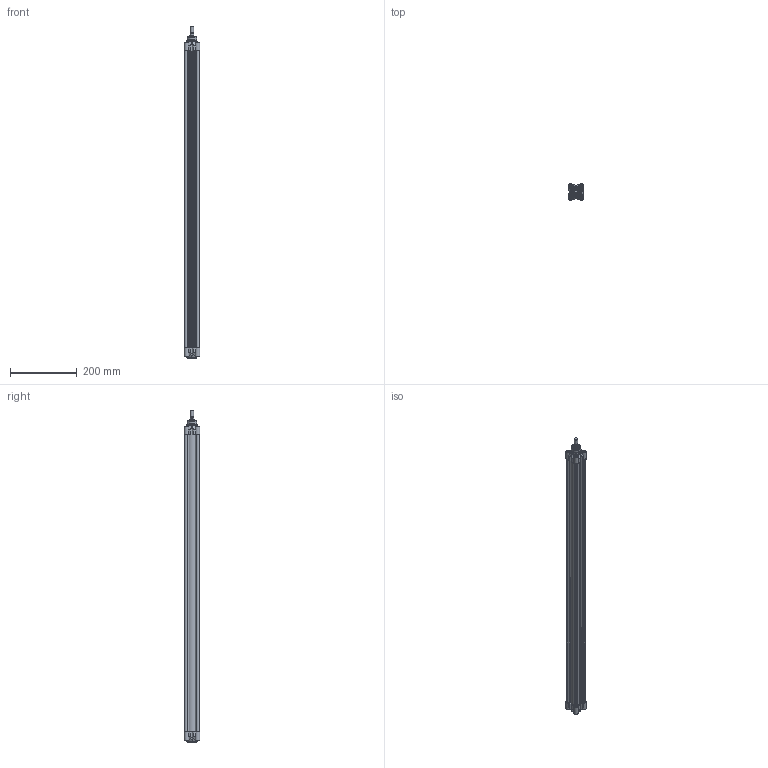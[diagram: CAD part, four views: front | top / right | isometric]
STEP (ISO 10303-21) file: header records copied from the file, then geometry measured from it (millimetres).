
FILE_DESCRIPTION(/* description */ ('CILINDRO D.E. MAGNETICO AMMORTIZZATO ISO 15552'),/* implementation_level */ '2;1');
FILE_NAME(/* name */ 'T:\Archivio Inventor\- 00 NUOVI STP PER SITO CON STELO CHE SI MUOVE\SERIE H - U\SERIE HDM\HDM032-TUBO NUOVO\HDM032.850.GS.M.stp',/* time_stamp */ '2018-07-25T14:31:01+02:00',/* author */ ('carlo.corazza'),/* organization */ (''),/* preprocessor_version */ 'ST-DEVELOPER v16.5',/* originating_system */ 'Autodesk Inventor 2017',/* authorisation */ '');
FILE_SCHEMA (('AUTOMOTIVE_DESIGN { 1 0 10303 214 3 1 1 }'));
Length unit declared in the file: millimetre
Products named in the file (5): HDM032.850.GS.M; TP; STELO-850; TA; CORPO-850
Assembly tree (4 placements, depth 2):
  HDM032.850.GS.M
    TP
    STELO-850
    TA
    CORPO-850
Bounding box: 47 x 47 x 996 mm (x, y, z)
Volume: 646120.5 mm3; surface area: 495780.9 mm2
Topology: 4 solids, 18 shells, 969 faces, 2356 edges, 1494 vertices
Faces by surface type: plane 330, cylinder 260, bspline 190, cone 86, torus 83, sphere 20
Full cylindrical faces by diameter (mm): 2 x2, 2.1 x2, 4 x2, 4.5 x2, 4.917 x8, 6 x8, 6.2 x8, 6.3 x4, 7 x2, 7.8 x4, 7.9 x3, 8 x4, 8.566 x2, 10 x9, 10.3 x8, 11.6 x1, 12 x1, 12.8 x1, 12.847 x1, 16 x1, 17 x2, 22 x3, 28 x1, 30 x2, 32 x1
Entity records: 31186 total; most frequent: CARTESIAN_POINT 9171, ORIENTED_EDGE 4162, DIRECTION 4048, EDGE_CURVE 2081, AXIS2_PLACEMENT_3D 1569, VERTEX_POINT 1436, EDGE_LOOP 1302, FACE_OUTER_BOUND 969
